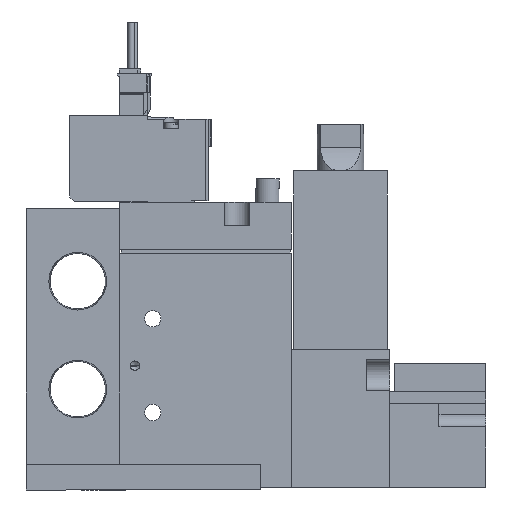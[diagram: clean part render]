
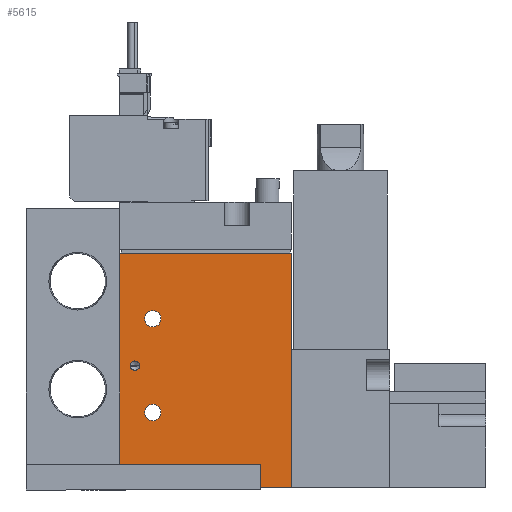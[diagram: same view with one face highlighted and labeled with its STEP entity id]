
A CAD part, left-side view. The second image highlights one B-rep face of the part: STEP entity #5615.
In plain terms, the highlighted planar face has unit normal (-1, 0, 0) as drawn and (1, 0, 0) by its records, which use the part's own axes.
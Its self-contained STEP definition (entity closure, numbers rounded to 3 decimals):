
#5615=ADVANCED_FACE('',(#8858,#8859,#8860,#8861),#8862,.F.);
#8858=FACE_BOUND('',#14645,.T.);
#8859=FACE_BOUND('',#14646,.T.);
#8860=FACE_BOUND('',#14647,.T.);
#8861=FACE_OUTER_BOUND('',#14648,.T.);
#8862=PLANE('',#14649);
#14645=EDGE_LOOP('',(#22772));
#14646=EDGE_LOOP('',(#22773));
#14647=EDGE_LOOP('',(#22774));
#14648=EDGE_LOOP('',(#22775,#22776,#22777,#22778));
#14649=AXIS2_PLACEMENT_3D('',#22779,#22780,#22781);
#22772=ORIENTED_EDGE('',*,*,#40655,.F.);
#22773=ORIENTED_EDGE('',*,*,#40657,.T.);
#22774=ORIENTED_EDGE('',*,*,#40658,.T.);
#22775=ORIENTED_EDGE('',*,*,#40648,.T.);
#22776=ORIENTED_EDGE('',*,*,#40645,.F.);
#22777=ORIENTED_EDGE('',*,*,#40649,.F.);
#22778=ORIENTED_EDGE('',*,*,#40641,.T.);
#22779=CARTESIAN_POINT('',(8.5,-19.444,50.0));
#22780=DIRECTION('',(-1.0,0.0,0.0));
#22781=DIRECTION('',(0.0,0.0,1.0));
#40641=EDGE_CURVE('',#47687,#47685,#47688,.T.);
#40645=EDGE_CURVE('',#47692,#47690,#47694,.T.);
#40648=EDGE_CURVE('',#47685,#47690,#47699,.T.);
#40649=EDGE_CURVE('',#47687,#47692,#47700,.T.);
#40655=EDGE_CURVE('',#47709,#47709,#47710,.T.);
#40657=EDGE_CURVE('',#47711,#47711,#47712,.T.);
#40658=EDGE_CURVE('',#47713,#47713,#47714,.T.);
#47685=VERTEX_POINT('',#59534);
#47687=VERTEX_POINT('',#59537);
#47688=LINE('',#59538,#59539);
#47690=VERTEX_POINT('',#59542);
#47692=VERTEX_POINT('',#59545);
#47694=LINE('',#59548,#59549);
#47699=LINE('',#59554,#59555);
#47700=LINE('',#59556,#59557);
#47709=VERTEX_POINT('',#59566);
#47710=CIRCLE('',#59567,1.0);
#47711=VERTEX_POINT('',#59568);
#47712=CIRCLE('',#59569,1.75);
#47713=VERTEX_POINT('',#59570);
#47714=CIRCLE('',#59571,1.75);
#59534=CARTESIAN_POINT('',(8.5,-19.444,0.0));
#59537=CARTESIAN_POINT('',(8.5,-19.444,50.0));
#59538=CARTESIAN_POINT('',(8.5,-19.444,50.0));
#59539=VECTOR('',#74414,1.0);
#59542=CARTESIAN_POINT('',(8.5,17.056,0.0));
#59545=CARTESIAN_POINT('',(8.5,17.056,50.0));
#59548=CARTESIAN_POINT('',(8.5,17.056,50.0));
#59549=VECTOR('',#74418,1.0);
#59554=CARTESIAN_POINT('',(8.5,-19.444,0.0));
#59555=VECTOR('',#74425,1.0);
#59556=CARTESIAN_POINT('',(8.5,-19.444,50.0));
#59557=VECTOR('',#74426,1.0);
#59566=CARTESIAN_POINT('',(8.5,-17.244,26.0));
#59567=AXIS2_PLACEMENT_3D('',#74439,#74440,#74441);
#59568=CARTESIAN_POINT('',(8.5,-10.694,36.0));
#59569=AXIS2_PLACEMENT_3D('',#74442,#74443,#74444);
#59570=CARTESIAN_POINT('',(8.5,-10.694,16.0));
#59571=AXIS2_PLACEMENT_3D('',#74445,#74446,#74447);
#74414=DIRECTION('',(0.0,0.0,-1.0));
#74418=DIRECTION('',(0.0,0.0,-1.0));
#74425=DIRECTION('',(0.0,1.0,0.0));
#74426=DIRECTION('',(0.0,1.0,0.0));
#74439=CARTESIAN_POINT('',(8.5,-16.244,26.0));
#74440=DIRECTION('',(1.0,0.,0.0));
#74441=DIRECTION('',(0.,-1.0,0.0));
#74442=CARTESIAN_POINT('',(8.5,-12.444,36.0));
#74443=DIRECTION('',(-1.0,0.0,0.0));
#74444=DIRECTION('',(0.0,1.0,0.0));
#74445=CARTESIAN_POINT('',(8.5,-12.444,16.0));
#74446=DIRECTION('',(-1.0,0.0,0.0));
#74447=DIRECTION('',(0.0,1.0,0.0));
